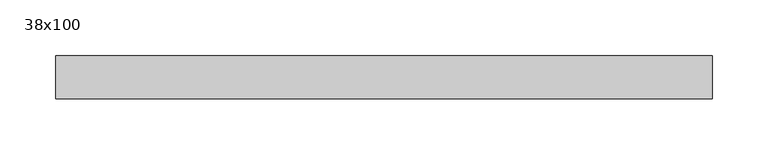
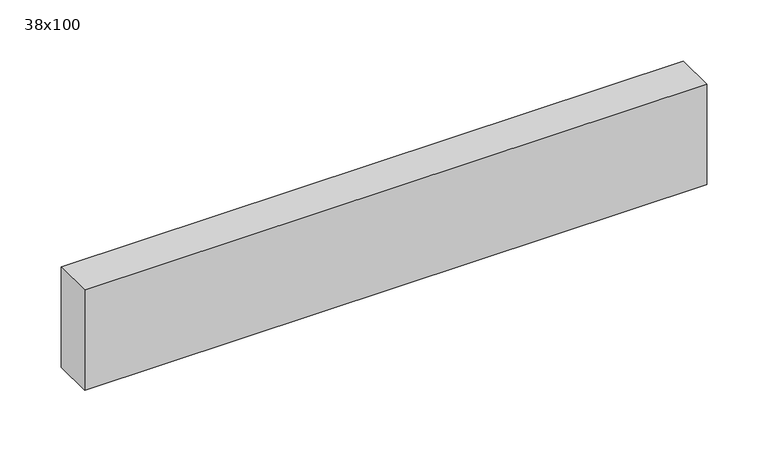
"""IFC4 building model written with IfcOpenShell, lengths in millimetres: beam geometry, Poutre - Bois de construction de dimensions courantes : 38x100."""

from ifc_helpers import new_model, si_unit, frame, origin, place, context, project, spatial, polyline, outline, extrude, source, transform, mapped, element, save


def beam_38x100_9d0ebf21(model_context):
    return source(origin(), model_context, "Body", "SweptSolid", [
        extrude(outline(polyline([(286.0, 19.05), (286.0, -19.05), (-300.0, -19.05), (-300.0, 19.05), (286.0, 19.05)])), frame((0.0, 0.0, -50.0), z_axis=(0.0, 0.0, 1.0), x_axis=(1.0, 0.0, 0.0)), (0.0, 0.0, 1.0), 100.0),
    ])


if __name__ == "__main__":
    model = new_model("IFC4")
    model_context = context("Model", 3, world=origin())
    ifc_project = project(units=[si_unit("LENGTHUNIT", "METRE", prefix="MILLI")], contexts=[model_context])
    site = spatial("IfcSite", under=ifc_project)
    building = spatial("IfcBuilding", under=site)
    placement = place(None, origin())
    beam_38x100_shape = beam_38x100_9d0ebf21(model_context)
    element("IfcBeam", 1, ObjectType="Poutre - Bois de construction de dimensions courantes : 38x100", at=placement, inside=building, context=model_context, shape_type="MappedRepresentation", body=[
        mapped(beam_38x100_shape, transform((0.0, 0.0, 0.0), x_axis=(1.0, 0.0, 0.0), y_axis=(0.0, 1.0, 0.0), z_axis=(0.0, 0.0, 1.0))),
    ])
    save(model, "model.ifc")
